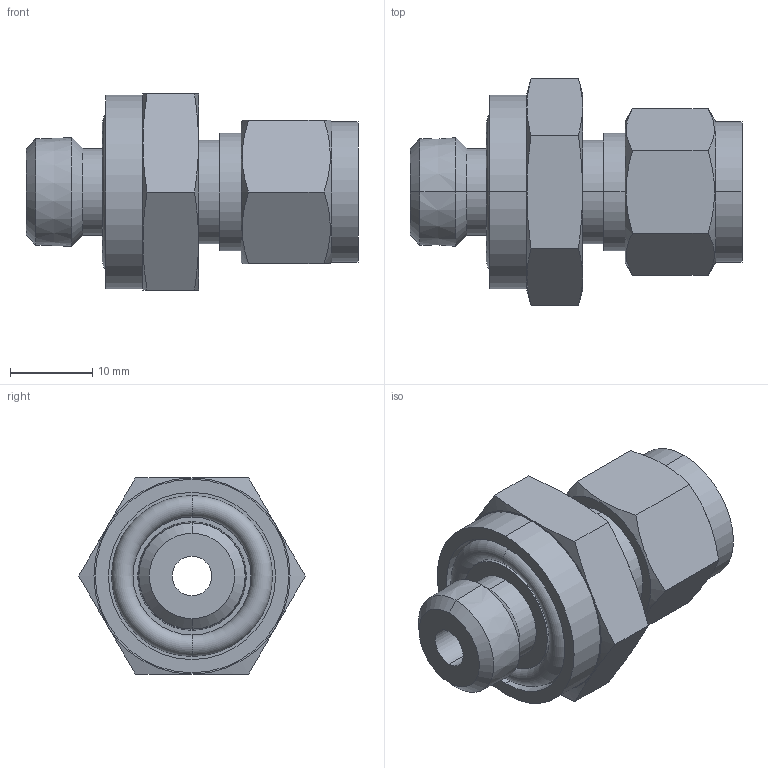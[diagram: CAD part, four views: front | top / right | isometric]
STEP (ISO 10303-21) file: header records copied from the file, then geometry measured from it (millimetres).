
FILE_DESCRIPTION (( 'STEP AP203' ), '1' );
FILE_NAME ('DCM06-04 SS.STEP', '2009-09-08T04:57:20', ( ' ' ), ( '' ), 'SwSTEP 2.0', 'SolidWorks 2008', '' );
FILE_SCHEMA (( 'CONFIG_CONTROL_DESIGN' ));
Length unit declared in the file: millimetre
Products named in the file (1): DCM06-04 SS
Bounding box: 40.3 x 27.49 x 23.81 mm (x, y, z)
Volume: 8862.6 mm3; surface area: 5079.4 mm2
Topology: 2 solids, 2 shells, 70 faces, 152 edges, 92 vertices
Faces by surface type: cone 24, plane 22, cylinder 20, torus 4
Entity records: 2159 total; most frequent: CARTESIAN_POINT 571, DIRECTION 322, ORIENTED_EDGE 304, EDGE_CURVE 152, AXIS2_PLACEMENT_3D 139, VERTEX_POINT 92, EDGE_LOOP 80, ADVANCED_FACE 70
